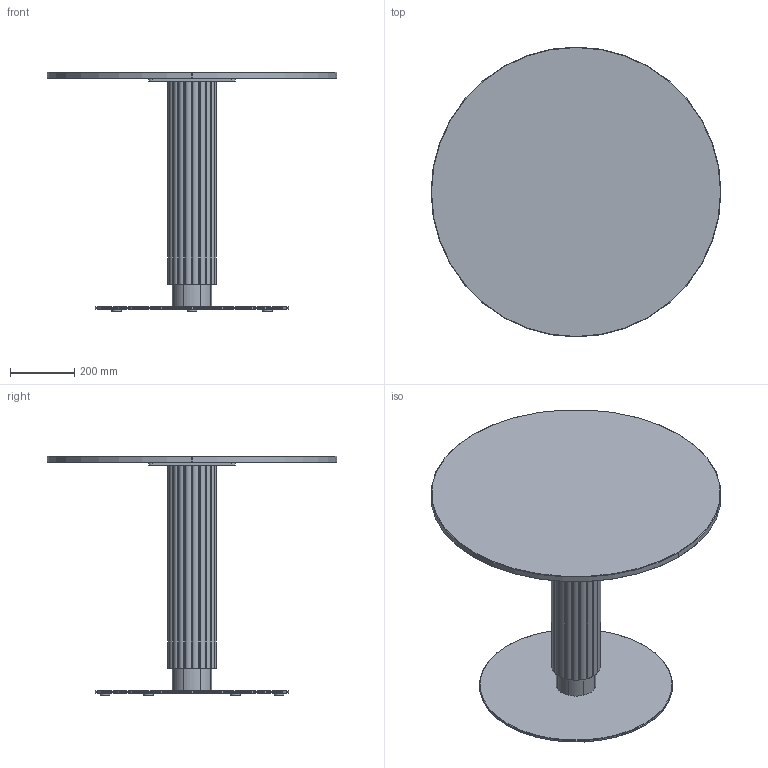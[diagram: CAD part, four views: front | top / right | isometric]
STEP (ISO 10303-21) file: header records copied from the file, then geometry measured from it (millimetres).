
FILE_DESCRIPTION( ('This file contains a STEP AP42 implementation' ,'as created by ZW3D STEP Interface translator.') ,'2;1' );
FILE_NAME( 'God - B_Rond - F1 - M1 - 900 x 900 x 750.stp' ,'24 912.112845', (''), ('ZWCAD Software Co.'), 'Version 1.0', 'ZW3D to STEP translator', '' );
FILE_SCHEMA(('AUTOMOTIVE_DESIGN { 1 0 10303 214 1 1 1 1 }'));
Length unit declared in the file: millimetre
Products named in the file (16): 0; PIED BISTROT PARAMETRIQUE_; CROIX ACIER 370 V.02_; CRX-X370-02_; SOCLE ACIER C Ø600 V.02_; SCL-D600-02_; PLA-R30A-01_; PLA-R30A-01; COLONNE ACIER Ø48.5 V.02_; TUB-D048-02_; PLA-R48A-01_; Colonne GODRON H700_; WUERTH 0276063020 Euro-screw 6.3x2 Verzinkt_; PLATEAU BISTROT PARAMETRIQUE_; insert_m6_13_; insert_m6_13
Assembly tree (25 placements, depth 3):
  0
  PIED BISTROT PARAMETRIQUE_
    CROIX ACIER 370 V.02_
      CRX-X370-02_
    SOCLE ACIER C Ø600 V.02_
      SCL-D600-02_
      PLA-R30A-01_
      PLA-R30A-01  x5
    COLONNE ACIER Ø48.5 V.02_
      TUB-D048-02_
      PLA-R48A-01_  x2
    Colonne GODRON H700_
    WUERTH 0276063020 Euro-screw 6.3x2 Verzinkt_
    PLATEAU BISTROT PARAMETRIQUE_
      insert_m6_13_  x2
      insert_m6_13  x6
Bounding box: 900 x 900 x 744 mm (x, y, z)
Volume: 26053682.9 mm3; surface area: 3324642.2 mm2
Topology: 29 solids, 29 shells, 656 faces, 1625 edges, 1042 vertices
Faces by surface type: plane 294, cylinder 193, bspline 121, cone 47, torus 1
Full cylindrical faces by diameter (mm): 4.88 x1, 6 x8, 6.3 x1, 8 x47, 12 x2, 14 x2, 30 x6, 44.5 x3, 48.5 x1, 600 x1
Entity records: 17278 total; most frequent: CARTESIAN_POINT 4453, ORIENTED_EDGE 2374, DIRECTION 2354, EDGE_CURVE 1187, AXIS2_PLACEMENT_3D 833, VERTEX_POINT 768, VECTOR 688, LINE 688
